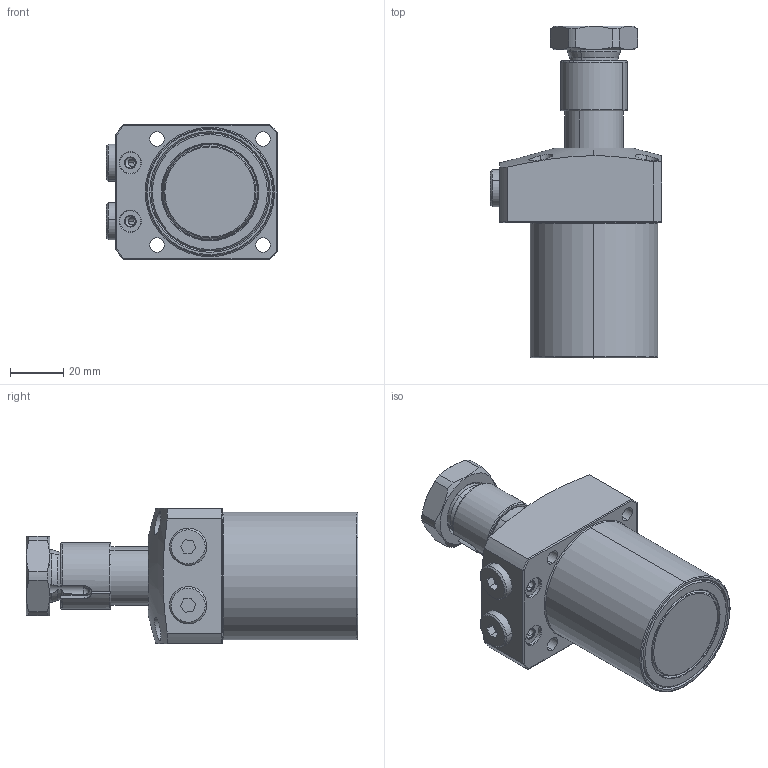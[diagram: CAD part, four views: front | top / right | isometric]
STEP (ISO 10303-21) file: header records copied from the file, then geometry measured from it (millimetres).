
FILE_DESCRIPTION(/* description */ (''),/* implementation_level */ '2;1');
FILE_NAME(/* name */ 'KTRC48-LN30.stp',/* time_stamp */ '2022-11-18T09:10:34+08:00',/* author */ (''),/* organization */ (''),/* preprocessor_version */ 'ST-DEVELOPER v16.7',/* originating_system */ 'SIEMENS PLM Software NX 12.0',/* authorisation */ '');
FILE_SCHEMA (('AP203_CONFIGURATION_CONTROLLED_3D_DESIGN_OF_MECHANICAL_PARTS_AND_ASSEMBLIES_MIM_LF { 1 0 10303 403 2 1 2}'));
Length unit declared in the file: millimetre
Products named in the file (7): KTRC48-LN30-01; KTRC48-LN30-03; KTRC48-LN30-04; KTRC48-LN30-06; KTRC48-LN30-05; KTRC48-LN30-02; LHA0480-CL-Y30_step
Assembly tree (7 placements, depth 2):
  LHA0480-CL-Y30_step
    KTRC48-LN30-02
    KTRC48-LN30-05  x2
    KTRC48-LN30-06
    KTRC48-LN30-04
    KTRC48-LN30-03
    KTRC48-LN30-01
Bounding box: 64.5 x 125.1 x 51 mm (x, y, z)
Volume: 190985.7 mm3; surface area: 35434.1 mm2
Topology: 7 solids, 7 shells, 242 faces, 589 edges, 373 vertices
Faces by surface type: cylinder 89, plane 78, cone 53, torus 20, sphere 2
Entity records: 8269 total; most frequent: CARTESIAN_POINT 2060, DIRECTION 1151, ORIENTED_EDGE 1118, EDGE_CURVE 559, AXIS2_PLACEMENT_3D 471, VERTEX_POINT 355, EDGE_LOOP 256, CIRCLE 234
